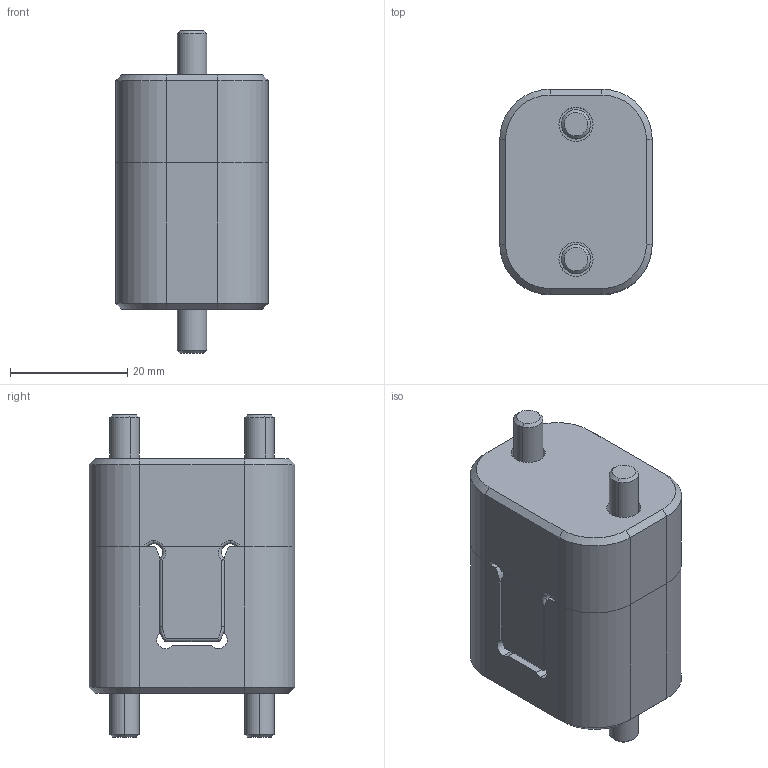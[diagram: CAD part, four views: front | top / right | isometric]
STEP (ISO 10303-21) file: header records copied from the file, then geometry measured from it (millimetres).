
FILE_DESCRIPTION (( 'STEP AP203' ), '1' );
FILE_NAME ('TLM26X35-R.step', '2018-03-16T16:54:46', ( '' ), ( '' ), 'SwSTEP 2.0', 'SolidWorks 2015', '' );
FILE_SCHEMA (( 'CONFIG_CONTROL_DESIGN' ));
Length unit declared in the file: millimetre
Products named in the file (5): TLM26X35-R; M5_X_16; M5_X_25; TLM26X35-R FEMALE; TLM26X35-R MALE
Assembly tree (6 placements, depth 2):
  TLM26X35-R
    TLM26X35-R MALE
    TLM26X35-R FEMALE
    M5_X_16  x2
    M5_X_25  x2
Bounding box: 26 x 35 x 55 mm (x, y, z)
Volume: 31904.6 mm3; surface area: 13301.7 mm2
Topology: 6 solids, 6 shells, 458 faces, 1004 edges, 654 vertices
Faces by surface type: cylinder 235, plane 169, cone 26, torus 24, bspline 4
Entity records: 12561 total; most frequent: CARTESIAN_POINT 2253, DIRECTION 2236, ORIENTED_EDGE 1856, AXIS2_PLACEMENT_3D 933, EDGE_CURVE 928, VERTEX_POINT 606, EDGE_LOOP 522, CIRCLE 506
